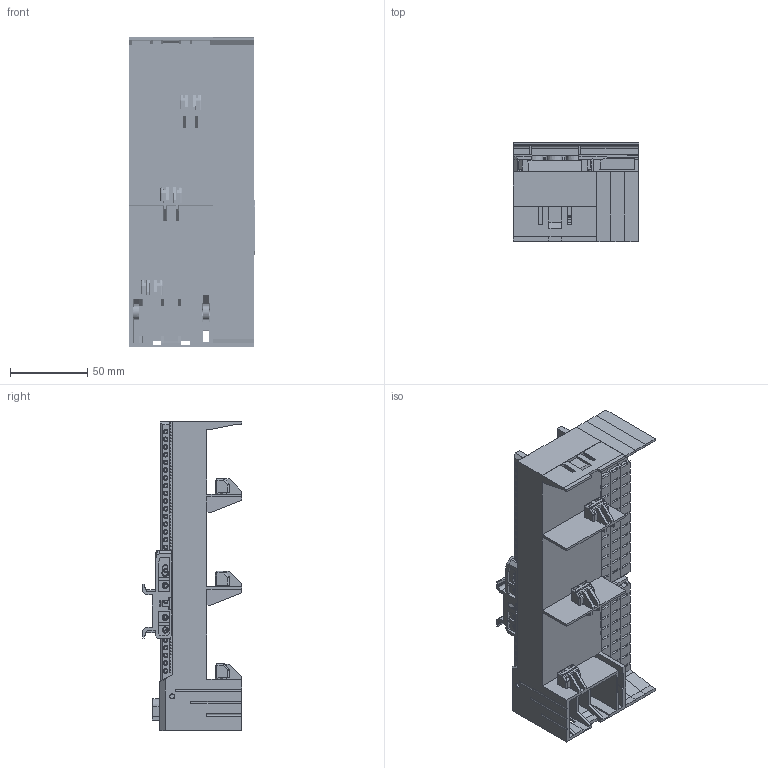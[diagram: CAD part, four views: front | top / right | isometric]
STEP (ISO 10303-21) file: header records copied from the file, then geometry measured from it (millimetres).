
FILE_DESCRIPTION (( 'STEP AP203' ), '1' );
FILE_NAME ('55310.STEP', '2021-08-18T07:08:07', ( '' ), ( '' ), 'SwSTEP 2.0', 'SolidWorks 2017', '' );
FILE_SCHEMA (( 'CONFIG_CONTROL_DESIGN' ));
Length unit declared in the file: millimetre
Products named in the file (2): 55310
Bounding box: 81.05 x 64.3 x 200.4 mm (x, y, z)
Volume: 394035.9 mm3; surface area: 164344.2 mm2
Topology: 11 solids, 18 shells, 3451 faces, 9705 edges, 6458 vertices
Faces by surface type: plane 2504, cylinder 662, cone 169, bspline 113, torus 3
Full cylindrical faces by diameter (mm): 1.988 x130, 2.982 x8, 3.479 x4, 5 x36, 5.169 x2, 5.964 x7
Entity records: 158347 total; most frequent: CARTESIAN_POINT 74289, ORIENTED_EDGE 18350, DIRECTION 15202, EDGE_CURVE 9175, VECTOR 6480, LINE 6480, VERTEX_POINT 6275, AXIS2_PLACEMENT_3D 4361
